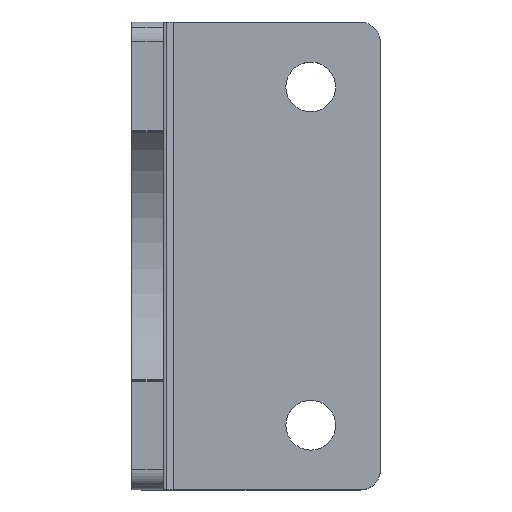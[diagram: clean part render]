
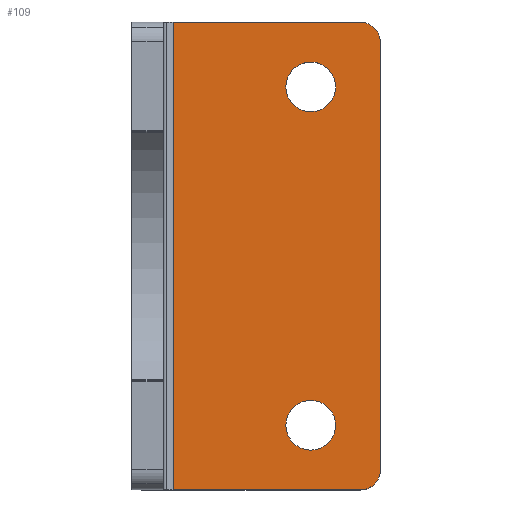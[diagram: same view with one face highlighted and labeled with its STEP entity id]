
A CAD part, top view. The second image highlights one B-rep face of the part: STEP entity #109.
In plain terms, the highlighted planar face has unit normal (0, 0, 1).
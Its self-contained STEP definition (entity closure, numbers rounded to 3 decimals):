
#109=ADVANCED_FACE('',(#247,#248,#249),#250,.T.);
#247=FACE_OUTER_BOUND('',#419,.T.);
#248=FACE_BOUND('',#420,.T.);
#249=FACE_BOUND('',#421,.T.);
#250=PLANE('',#422);
#419=EDGE_LOOP('',(#4811,#4812,#4813,#4814,#4815,#4816,#4817,#4818));
#420=EDGE_LOOP('',(#4819,#4820));
#421=EDGE_LOOP('',(#4821,#4822));
#422=AXIS2_PLACEMENT_3D('',#4823,#4824,#4825);
#4811=ORIENTED_EDGE('',*,*,#5186,.F.);
#4812=ORIENTED_EDGE('',*,*,#5244,.F.);
#4813=ORIENTED_EDGE('',*,*,#5235,.F.);
#4814=ORIENTED_EDGE('',*,*,#5250,.F.);
#4815=ORIENTED_EDGE('',*,*,#5251,.F.);
#4816=ORIENTED_EDGE('',*,*,#5195,.F.);
#4817=ORIENTED_EDGE('',*,*,#5229,.F.);
#4818=ORIENTED_EDGE('',*,*,#5252,.F.);
#4819=ORIENTED_EDGE('',*,*,#5231,.T.);
#4820=ORIENTED_EDGE('',*,*,#5192,.T.);
#4821=ORIENTED_EDGE('',*,*,#5253,.T.);
#4822=ORIENTED_EDGE('',*,*,#5254,.T.);
#4823=CARTESIAN_POINT('',(86.261,131.47,16.7));
#4824=DIRECTION('',(0.,0.0,1.0));
#4825=DIRECTION('',(0.,1.0,0.));
#5186=EDGE_CURVE('',#5398,#5400,#5401,.T.);
#5192=EDGE_CURVE('',#5404,#5409,#5411,.T.);
#5195=EDGE_CURVE('',#5413,#5416,#5417,.T.);
#5229=EDGE_CURVE('',#5472,#5413,#5474,.T.);
#5231=EDGE_CURVE('',#5409,#5404,#5476,.T.);
#5235=EDGE_CURVE('',#5480,#5482,#5483,.T.);
#5244=EDGE_CURVE('',#5482,#5398,#5495,.T.);
#5250=EDGE_CURVE('',#5504,#5480,#5505,.T.);
#5251=EDGE_CURVE('',#5416,#5504,#5506,.T.);
#5252=EDGE_CURVE('',#5400,#5472,#5507,.T.);
#5253=EDGE_CURVE('',#5508,#5509,#5510,.T.);
#5254=EDGE_CURVE('',#5509,#5508,#5511,.T.);
#5398=VERTEX_POINT('',#6566);
#5400=VERTEX_POINT('',#6568);
#5401=LINE('',#6569,#6570);
#5404=VERTEX_POINT('',#6573);
#5409=VERTEX_POINT('',#6579);
#5411=CIRCLE('',#6582,2.5);
#5413=VERTEX_POINT('',#6584);
#5416=VERTEX_POINT('',#6588);
#5417=CIRCLE('',#6589,2.0);
#5472=VERTEX_POINT('',#7087);
#5474=CIRCLE('',#7090,2.0);
#5476=CIRCLE('',#7092,2.5);
#5480=VERTEX_POINT('',#7096);
#5482=VERTEX_POINT('',#7099);
#5483=CIRCLE('',#7100,2.0);
#5495=LINE('',#7545,#7546);
#5504=VERTEX_POINT('',#7558);
#5505=CIRCLE('',#7559,2.0);
#5506=LINE('',#7560,#7561);
#5507=LINE('',#7562,#7563);
#5508=VERTEX_POINT('',#7564);
#5509=VERTEX_POINT('',#7565);
#5510=CIRCLE('',#7566,2.5);
#5511=CIRCLE('',#7567,2.5);
#6566=CARTESIAN_POINT('',(76.361,107.97,16.7));
#6568=CARTESIAN_POINT('',(76.361,154.97,16.7));
#6569=CARTESIAN_POINT('',(76.361,131.47,16.7));
#6570=VECTOR('',#14456,1.0);
#6573=CARTESIAN_POINT('',(92.661,114.47,16.7));
#6579=CARTESIAN_POINT('',(87.661,114.47,16.7));
#6582=AXIS2_PLACEMENT_3D('',#14465,#14466,#14467);
#6584=CARTESIAN_POINT('',(96.575,154.384,16.7));
#6588=CARTESIAN_POINT('',(97.161,152.97,16.7));
#6589=AXIS2_PLACEMENT_3D('',#14469,#14470,#14471);
#7087=CARTESIAN_POINT('',(95.161,154.97,16.7));
#7090=AXIS2_PLACEMENT_3D('',#14516,#14517,#14518);
#7092=AXIS2_PLACEMENT_3D('',#14519,#14520,#14521);
#7096=CARTESIAN_POINT('',(96.575,108.555,16.7));
#7099=CARTESIAN_POINT('',(95.161,107.97,16.7));
#7100=AXIS2_PLACEMENT_3D('',#14526,#14527,#14528);
#7545=CARTESIAN_POINT('',(85.461,107.97,16.7));
#7546=VECTOR('',#14535,1.0);
#7558=CARTESIAN_POINT('',(97.161,109.97,16.7));
#7559=AXIS2_PLACEMENT_3D('',#14542,#14543,#14544);
#7560=CARTESIAN_POINT('',(97.161,131.47,16.7));
#7561=VECTOR('',#14545,1.0);
#7562=CARTESIAN_POINT('',(85.461,154.97,16.7));
#7563=VECTOR('',#14546,1.0);
#7564=CARTESIAN_POINT('',(87.661,148.47,16.7));
#7565=CARTESIAN_POINT('',(92.661,148.47,16.7));
#7566=AXIS2_PLACEMENT_3D('',#14547,#14548,#14549);
#7567=AXIS2_PLACEMENT_3D('',#14550,#14551,#14552);
#14456=DIRECTION('',(0.,1.0,0.));
#14465=CARTESIAN_POINT('',(90.161,114.47,16.7));
#14466=DIRECTION('',(0.0,0.0,-1.0));
#14467=DIRECTION('',(1.0,0.0,0.0));
#14469=CARTESIAN_POINT('',(95.161,152.97,16.7));
#14470=DIRECTION('',(0.,0.,-1.0));
#14471=DIRECTION('',(0.707,0.707,0.));
#14516=CARTESIAN_POINT('',(95.161,152.97,16.7));
#14517=DIRECTION('',(0.,0.,-1.0));
#14518=DIRECTION('',(0.707,0.707,0.));
#14519=CARTESIAN_POINT('',(90.161,114.47,16.7));
#14520=DIRECTION('',(0.0,0.0,-1.0));
#14521=DIRECTION('',(1.0,0.0,0.0));
#14526=CARTESIAN_POINT('',(95.161,109.97,16.7));
#14527=DIRECTION('',(0.,0.,-1.0));
#14528=DIRECTION('',(0.707,-0.707,0.));
#14535=DIRECTION('',(-1.0,0.,0.));
#14542=CARTESIAN_POINT('',(95.161,109.97,16.7));
#14543=DIRECTION('',(0.,0.,-1.0));
#14544=DIRECTION('',(0.707,-0.707,0.));
#14545=DIRECTION('',(0.,-1.0,0.));
#14546=DIRECTION('',(1.0,0.,0.));
#14547=CARTESIAN_POINT('',(90.161,148.47,16.7));
#14548=DIRECTION('',(0.0,0.0,-1.0));
#14549=DIRECTION('',(1.0,0.0,0.0));
#14550=CARTESIAN_POINT('',(90.161,148.47,16.7));
#14551=DIRECTION('',(0.0,0.0,-1.0));
#14552=DIRECTION('',(1.0,0.0,0.0));
